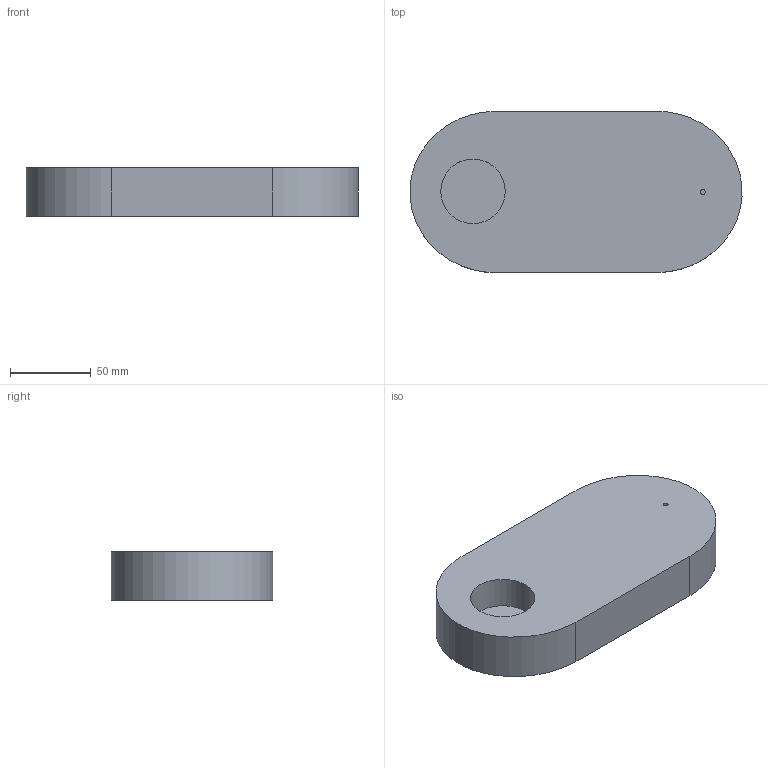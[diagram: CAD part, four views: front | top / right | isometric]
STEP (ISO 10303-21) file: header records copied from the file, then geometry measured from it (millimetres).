
FILE_DESCRIPTION(/* description */ (''),/* implementation_level */ '2;1');
FILE_NAME(/* name */ 'Dyade-socle',/* time_stamp */ '2026-09-01T15:15:39+02:00',/* author */ (''),/* organization */ (''),/* preprocessor_version */ 'ST-DEVELOPER v19.2',/* originating_system */ 'Rhino 8.29',/* authorisation */ '');
FILE_SCHEMA (('CONFIG_CONTROL_DESIGN'));
Length unit declared in the file: millimetre
Products named in the file (1): Document
Bounding box: 205.96 x 100 x 30 mm (x, y, z)
Volume: 526253.7 mm3; surface area: 55210.7 mm2
Topology: 1 solids, 1 shells, 10 faces, 18 edges, 12 vertices
Faces by surface type: plane 6, bspline 2, cylinder 2
Full cylindrical faces by diameter (mm): 3 x1, 40 x1
Entity records: 328 total; most frequent: CARTESIAN_POINT 86, ORIENTED_EDGE 36, DIRECTION 20, EDGE_CURVE 18, AXIS2_PLACEMENT_3D 14, EDGE_LOOP 12, VERTEX_POINT 12, ADVANCED_FACE 10
